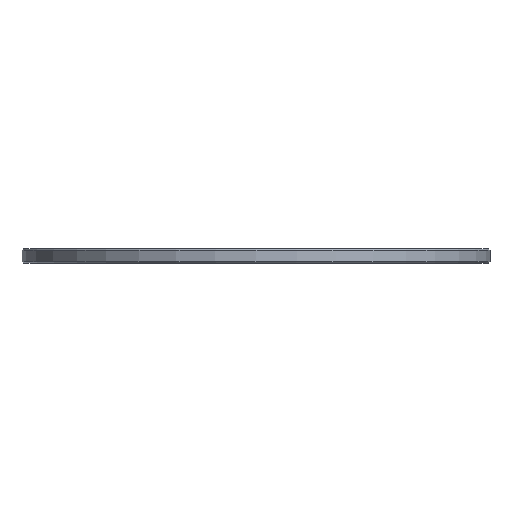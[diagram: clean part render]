
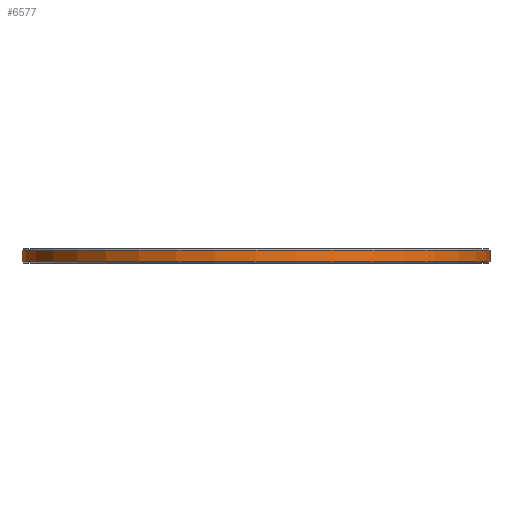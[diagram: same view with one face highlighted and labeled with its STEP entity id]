
A CAD part, front view. The second image highlights one B-rep face of the part: STEP entity #6577.
In plain terms, the highlighted cylindrical face has radius 51.562 mm (diameter 103.125 mm), a full revolution.
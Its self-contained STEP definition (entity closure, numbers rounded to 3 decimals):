
#80=CYLINDRICAL_SURFACE('',#7005,51.563);
#672=FACE_OUTER_BOUND('',#1063,.T.);
#1063=EDGE_LOOP('',(#6063,#6064,#6065,#6066));
#1172=CIRCLE('',#7004,51.563);
#1173=CIRCLE('',#7006,51.563);
#1986=LINE('',#10508,#2813);
#2813=VECTOR('',#8611,51.563);
#3418=VERTEX_POINT('',#10502);
#3419=VERTEX_POINT('',#10506);
#4303=EDGE_CURVE('',#3418,#3418,#1172,.T.);
#4305=EDGE_CURVE('',#3419,#3419,#1173,.T.);
#4306=EDGE_CURVE('',#3419,#3418,#1986,.T.);
#6063=ORIENTED_EDGE('',*,*,#4305,.F.);
#6064=ORIENTED_EDGE('',*,*,#4306,.T.);
#6065=ORIENTED_EDGE('',*,*,#4303,.F.);
#6066=ORIENTED_EDGE('',*,*,#4306,.F.);
#6577=ADVANCED_FACE('',(#672),#80,.T.);
#7004=AXIS2_PLACEMENT_3D('',#10503,#8604,#8605);
#7005=AXIS2_PLACEMENT_3D('',#10505,#8607,#8608);
#7006=AXIS2_PLACEMENT_3D('',#10507,#8609,#8610);
#8604=DIRECTION('center_axis',(0.,0.,-1.));
#8605=DIRECTION('ref_axis',(1.,0.,0.));
#8607=DIRECTION('center_axis',(0.,0.,1.));
#8608=DIRECTION('ref_axis',(1.,0.,0.));
#8609=DIRECTION('center_axis',(0.,0.,1.));
#8610=DIRECTION('ref_axis',(1.,0.,0.));
#8611=DIRECTION('',(0.,0.,-1.));
#10502=CARTESIAN_POINT('',(-51.563,0.,0.3));
#10503=CARTESIAN_POINT('Origin',(0.,0.,0.3));
#10505=CARTESIAN_POINT('Origin',(0.,0.,0.));
#10506=CARTESIAN_POINT('',(-51.563,0.,2.825));
#10507=CARTESIAN_POINT('Origin',(0.,0.,2.825));
#10508=CARTESIAN_POINT('',(-51.563,0.,0.));
